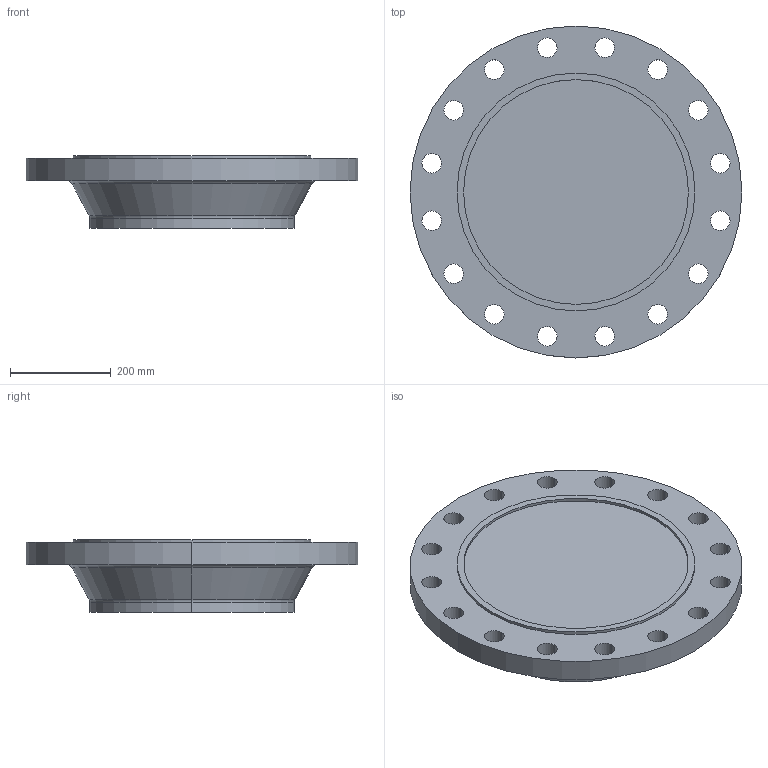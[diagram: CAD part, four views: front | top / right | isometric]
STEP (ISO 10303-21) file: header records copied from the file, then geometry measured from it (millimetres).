
FILE_DESCRIPTION (( 'STEP AP214' ), '1' );
FILE_NAME ('PN40 DN400 Type 21(ii) - Type C Face.STEP', '2019-01-05T23:11:20', ( '' ), ( '' ), 'SwSTEP 2.0', 'SolidWorks 2019', '' );
FILE_SCHEMA (( 'AUTOMOTIVE_DESIGN' ));
Length unit declared in the file: millimetre
Products named in the file (1): PN40 DN400 Type 21(ii) - Type C Face
Bounding box: 660 x 660 x 145 mm (x, y, z)
Volume: 28701272.1 mm3; surface area: 928725.6 mm2
Topology: 1 solids, 1 shells, 51 faces, 132 edges, 86 vertices
Faces by surface type: cylinder 40, plane 5, torus 4, cone 2
Entity records: 1706 total; most frequent: DIRECTION 326, CARTESIAN_POINT 270, ORIENTED_EDGE 264, AXIS2_PLACEMENT_3D 142, EDGE_CURVE 132, CIRCLE 90, VERTEX_POINT 86, EDGE_LOOP 86
